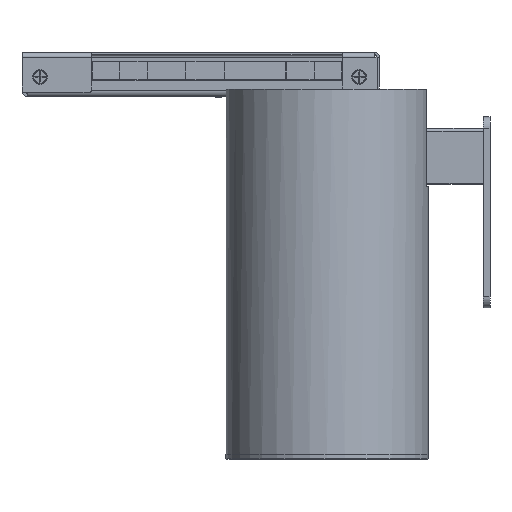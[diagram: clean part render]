
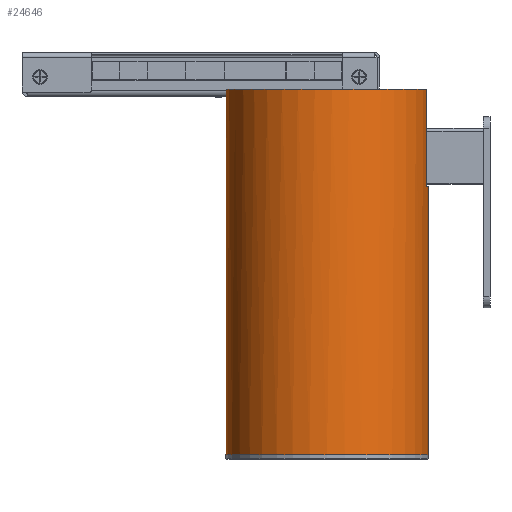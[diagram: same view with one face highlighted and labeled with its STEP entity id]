
A CAD part, left-side view. The second image highlights one B-rep face of the part: STEP entity #24646.
In plain terms, the highlighted cylindrical face has radius 45 mm (diameter 90 mm), a full revolution.
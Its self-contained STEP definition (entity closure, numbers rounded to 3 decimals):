
#807=LINE('',#41364,#3272);
#810=LINE('',#41370,#3275);
#3272=VECTOR('',#34493,1000.);
#3275=VECTOR('',#34498,1000.);
#7227=ORIENTED_EDGE('',*,*,#14122,.T.);
#7228=ORIENTED_EDGE('',*,*,#14116,.T.);
#7229=ORIENTED_EDGE('',*,*,#14107,.T.);
#7230=ORIENTED_EDGE('',*,*,#14113,.F.);
#7231=ORIENTED_EDGE('',*,*,#14120,.F.);
#14107=EDGE_CURVE('',#17593,#17594,#19869,.T.);
#14113=EDGE_CURVE('',#17598,#17594,#807,.T.);
#14116=EDGE_CURVE('',#17600,#17593,#810,.T.);
#14120=EDGE_CURVE('',#17604,#17604,#19874,.T.);
#14122=EDGE_CURVE('',#17598,#17600,#19876,.T.);
#17593=VERTEX_POINT('',#41352);
#17594=VERTEX_POINT('',#41353);
#17598=VERTEX_POINT('',#41363);
#17600=VERTEX_POINT('',#41368);
#17604=VERTEX_POINT('',#41381);
#19869=CIRCLE('',#32052,45.);
#19874=CIRCLE('',#32062,45.);
#19876=CIRCLE('',#32066,45.);
#20533=EDGE_LOOP('',(#7227,#7228,#7229,#7230));
#20534=EDGE_LOOP('',(#7231));
#22457=FACE_BOUND('',#20533,.T.);
#22458=FACE_BOUND('',#20534,.T.);
#24296=CYLINDRICAL_SURFACE('',#32067,45.);
#24646=ADVANCED_FACE('',(#22457,#22458),#24296,.T.);
#32052=AXIS2_PLACEMENT_3D('',#41351,#34483,#34484);
#32062=AXIS2_PLACEMENT_3D('',#41380,#34511,#34512);
#32066=AXIS2_PLACEMENT_3D('',#41385,#34519,#34520);
#32067=AXIS2_PLACEMENT_3D('',#41386,#34521,#34522);
#34483=DIRECTION('',(0.,-1.,0.));
#34484=DIRECTION('',(1.,0.,0.));
#34493=DIRECTION('',(0.,-1.,0.));
#34498=DIRECTION('',(0.,-1.,0.));
#34511=DIRECTION('',(0.,-1.,0.));
#34512=DIRECTION('',(0.,0.,-1.));
#34519=DIRECTION('',(0.,-1.,0.));
#34520=DIRECTION('',(0.,0.,-1.));
#34521=DIRECTION('',(0.,-1.,0.));
#34522=DIRECTION('',(0.,0.,-1.));
#41351=CARTESIAN_POINT('',(0.,119.3,0.));
#41352=CARTESIAN_POINT('',(-7.25,119.3,-44.412));
#41353=CARTESIAN_POINT('',(7.25,119.3,-44.412));
#41363=CARTESIAN_POINT('',(7.25,162.5,-44.412));
#41364=CARTESIAN_POINT('',(7.25,-60.,-44.412));
#41368=CARTESIAN_POINT('',(-7.25,162.5,-44.412));
#41370=CARTESIAN_POINT('',(-7.25,-60.,-44.412));
#41380=CARTESIAN_POINT('',(0.,0.,0.));
#41381=CARTESIAN_POINT('',(0.,0.,-45.));
#41385=CARTESIAN_POINT('',(0.,162.5,0.));
#41386=CARTESIAN_POINT('',(0.,-60.,0.));
